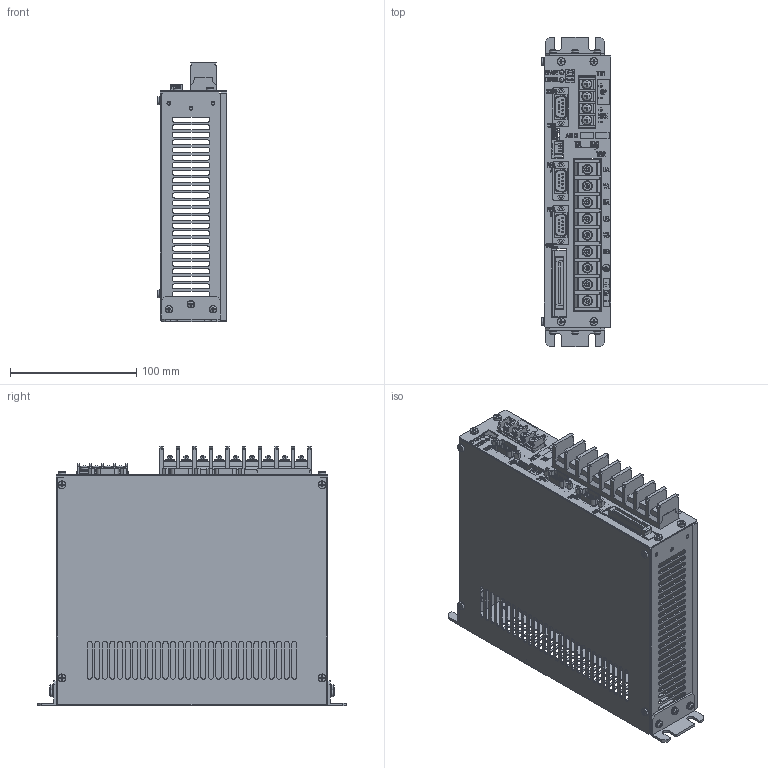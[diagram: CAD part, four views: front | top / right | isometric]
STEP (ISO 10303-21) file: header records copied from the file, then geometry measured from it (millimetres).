
FILE_DESCRIPTION(('HOOPS Exchange Step'),'2;1');
FILE_NAME('/tmp/1a5df3de66cd65d033a04005d4dc8c2f20210916-1-1tybnyj.X_T.step','2021-09-16T06:13:56+00:00',('root'),('Unknown organisation'),'HOOPS Exchange 2021.0','HOOPS Exchange','Unknown authorisation');
FILE_SCHEMA( ('AUTOMOTIVE_DESIGN { 1 0 10303 214 1 1 1 1 }') );
Length unit declared in the file: millimetre
Products named in the file (1): 1a5df3de66cd65d033a04005d4dc8c2f20210916-1-1tybnyj
Bounding box: 55.4 x 245 x 205.51 mm (x, y, z)
Volume: 324761.5 mm3; surface area: 291259.4 mm2
Topology: 277 solids, 694 shells, 3589 faces, 15150 edges, 12572 vertices
Faces by surface type: plane 2373, cylinder 1061, bspline 104, sphere 29, extrusion 14, cone 8
Full cylindrical faces by diameter (mm): 0.5 x54, 0.8 x53, 1 x27, 1.2 x27, 1.7 x2, 2 x49, 2.4 x12, 2.5 x2, 3 x73, 3.1 x8, 3.5 x20, 3.8 x4, 4 x65, 5.5 x6, 6 x8, 7 x27, 8 x23
Entity records: 177141 total; most frequent: CARTESIAN_POINT 51212, DIRECTION 23577, ORIENTED_EDGE 23504, EDGE_CURVE 15108, VERTEX_POINT 12570, VECTOR 11127, LINE 11113, AXIS2_PLACEMENT_3D 6225
